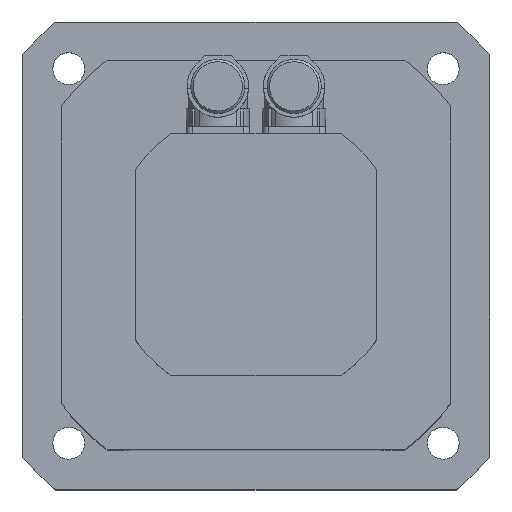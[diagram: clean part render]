
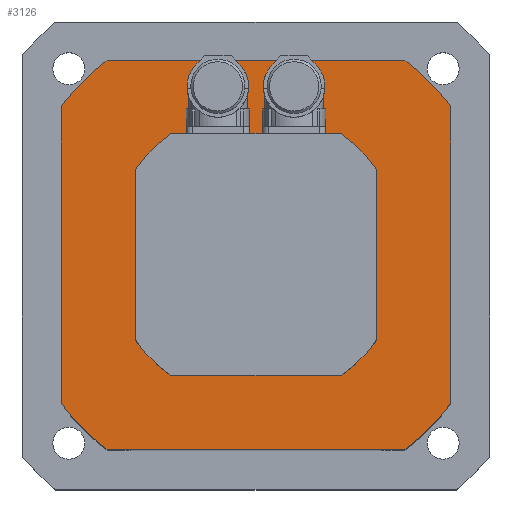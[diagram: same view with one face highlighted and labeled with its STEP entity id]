
A CAD part, top view. The second image highlights one B-rep face of the part: STEP entity #3126.
In plain terms, the highlighted planar face has unit normal (0, 0, 1).
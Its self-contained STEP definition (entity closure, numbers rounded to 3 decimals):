
#245=PLANE('',#3353);
#342=CIRCLE('',#3341,99.5);
#344=CIRCLE('',#3345,99.5);
#347=CIRCLE('',#3352,99.5);
#348=CIRCLE('',#3354,99.5);
#531=VECTOR('',#3858,1.);
#536=VECTOR('',#3870,1.);
#540=VECTOR('',#3881,1.);
#544=VECTOR('',#3886,1.);
#778=LINE('',#5039,#531);
#783=LINE('',#5053,#536);
#787=LINE('',#5066,#540);
#791=LINE('',#5074,#544);
#1039=VERTEX_POINT('',#5038);
#1040=VERTEX_POINT('',#5040);
#1042=VERTEX_POINT('',#5046);
#1044=VERTEX_POINT('',#5052);
#1046=VERTEX_POINT('',#5058);
#1049=VERTEX_POINT('',#5065);
#1050=VERTEX_POINT('',#5067);
#1052=VERTEX_POINT('',#5073);
#1424=EDGE_CURVE('',#1040,#1039,#778,.T.);
#1428=EDGE_CURVE('',#1039,#1042,#342,.T.);
#1431=EDGE_CURVE('',#1042,#1044,#783,.T.);
#1434=EDGE_CURVE('',#1044,#1046,#344,.T.);
#1437=EDGE_CURVE('',#1050,#1049,#787,.T.);
#1441=EDGE_CURVE('',#1046,#1052,#791,.T.);
#1444=EDGE_CURVE('',#1049,#1040,#347,.T.);
#1445=EDGE_CURVE('',#1052,#1050,#348,.T.);
#2054=ORIENTED_EDGE('',*,*,#1441,.T.);
#2055=ORIENTED_EDGE('',*,*,#1445,.T.);
#2056=ORIENTED_EDGE('',*,*,#1437,.T.);
#2057=ORIENTED_EDGE('',*,*,#1444,.T.);
#2058=ORIENTED_EDGE('',*,*,#1424,.T.);
#2059=ORIENTED_EDGE('',*,*,#1428,.T.);
#2060=ORIENTED_EDGE('',*,*,#1431,.T.);
#2061=ORIENTED_EDGE('',*,*,#1434,.T.);
#2692=EDGE_LOOP('',(#2054,#2055,#2056,#2057,#2058,#2059,#2060,#2061));
#2922=FACE_BOUND('',#2692,.T.);
#3126=ADVANCED_FACE('',(#2922),#245,.T.);
#3341=AXIS2_PLACEMENT_3D('',#5047,#3865,#3866);
#3345=AXIS2_PLACEMENT_3D('',#5059,#3876,#3877);
#3352=AXIS2_PLACEMENT_3D('',#5079,#3894,#3895);
#3353=AXIS2_PLACEMENT_3D('',#5080,#3896,$);
#3354=AXIS2_PLACEMENT_3D('',#5081,#3897,#3898);
#3858=DIRECTION('',(0.,-1.,0.));
#3865=DIRECTION('',(0.,0.,1.));
#3866=DIRECTION('',(99.5,0.,0.));
#3870=DIRECTION('',(1.,0.,0.));
#3876=DIRECTION('',(0.,0.,1.));
#3877=DIRECTION('',(99.5,0.,0.));
#3881=DIRECTION('',(-1.,0.,0.));
#3886=DIRECTION('',(0.,1.,0.));
#3894=DIRECTION('',(0.,0.,1.));
#3895=DIRECTION('',(99.5,0.,0.));
#3896=DIRECTION('',(0.,0.,1.));
#3897=DIRECTION('',(0.,0.,1.));
#3898=DIRECTION('',(99.5,0.,0.));
#5038=CARTESIAN_POINT('',(-79.,-60.492,0.));
#5039=CARTESIAN_POINT('',(-79.,60.492,0.));
#5040=CARTESIAN_POINT('',(-79.,60.492,0.));
#5046=CARTESIAN_POINT('',(-60.492,-79.,0.));
#5047=CARTESIAN_POINT('',(0.,0.,0.));
#5052=CARTESIAN_POINT('',(60.492,-79.,0.));
#5053=CARTESIAN_POINT('',(-60.492,-79.,0.));
#5058=CARTESIAN_POINT('',(79.,-60.492,0.));
#5059=CARTESIAN_POINT('',(0.,0.,0.));
#5065=CARTESIAN_POINT('',(-60.492,79.,0.));
#5066=CARTESIAN_POINT('',(60.492,79.,0.));
#5067=CARTESIAN_POINT('',(60.492,79.,0.));
#5073=CARTESIAN_POINT('',(79.,60.492,0.));
#5074=CARTESIAN_POINT('',(79.,-60.492,0.));
#5079=CARTESIAN_POINT('',(0.,0.,0.));
#5080=CARTESIAN_POINT('',(0.,0.,0.));
#5081=CARTESIAN_POINT('',(0.,0.,0.));
